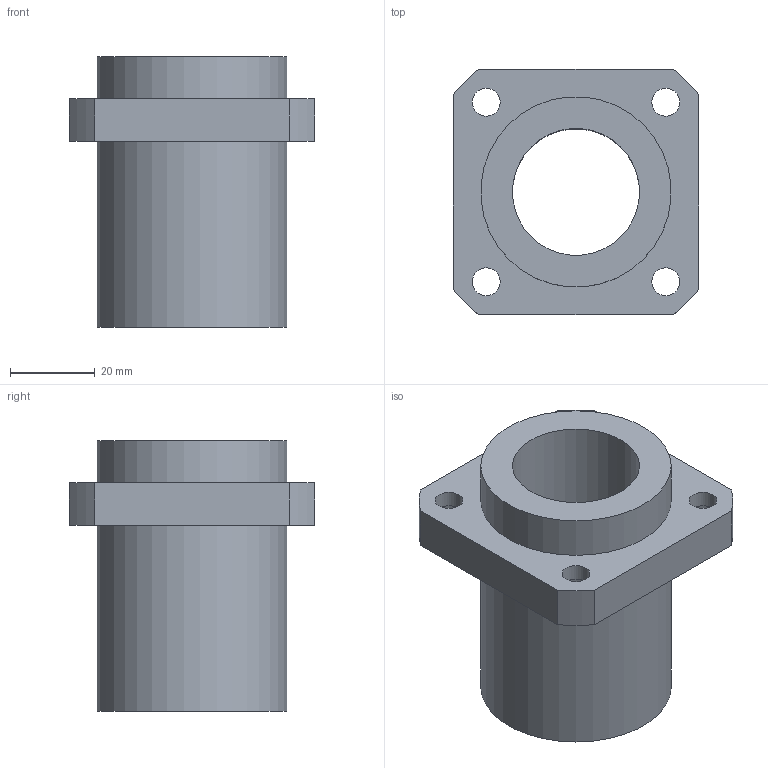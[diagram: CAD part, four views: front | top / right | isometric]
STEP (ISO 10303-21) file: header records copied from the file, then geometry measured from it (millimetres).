
FILE_DESCRIPTION(/* description */ (''),/* implementation_level */ '2;1');
FILE_NAME(/* name */ 'LMKP30UU',/* time_stamp */ '2019-07-10T08:51:54+02:00',/* author */ ('VĂ©gh MĂˇtĂ©'),/* organization */ ('Bearing Kft'),/* preprocessor_version */ 'ST-DEVELOPER v16.7',/* originating_system */ 'DEX',/* authorisation */ $);
FILE_SCHEMA (('AUTOMOTIVE_DESIGN {1 0 10303 214 3 1 1}'));
Length unit declared in the file: millimetre
Products named in the file (1): LMKP30UU
Bounding box: 58 x 58 x 64 mm (x, y, z)
Volume: 70759.7 mm3; surface area: 21935.5 mm2
Topology: 1 solids, 1 shells, 335 faces, 841 edges, 562 vertices
Faces by surface type: plane 255, bspline 63, cylinder 17
Full cylindrical faces by diameter (mm): 6.6 x4, 11 x4, 30 x1, 45 x2
Entity records: 12893 total; most frequent: CARTESIAN_POINT 5266, ORIENTED_EDGE 1646, DIRECTION 1277, EDGE_CURVE 823, LINE 663, VECTOR 663, VERTEX_POINT 558, EDGE_LOOP 413
